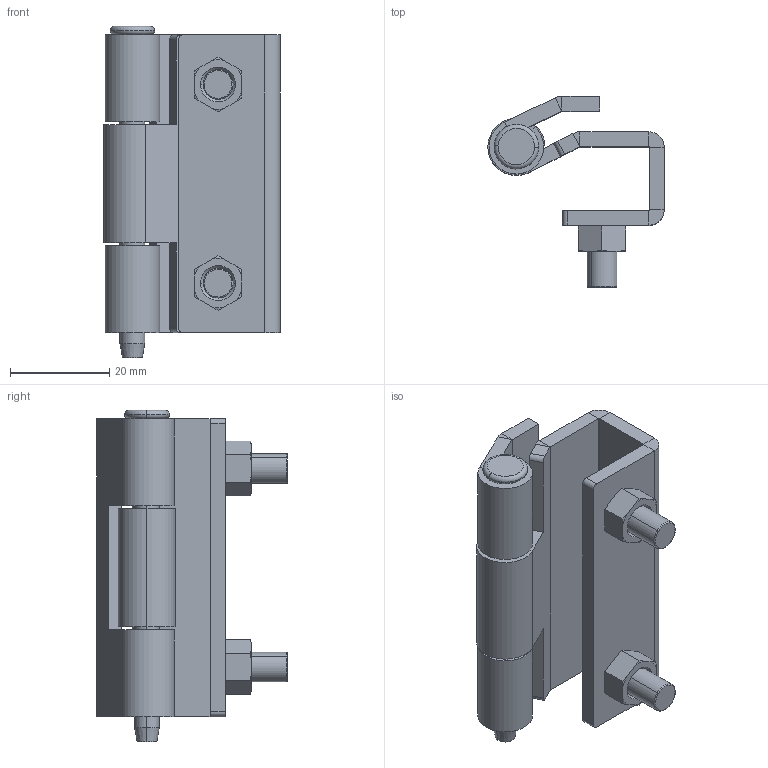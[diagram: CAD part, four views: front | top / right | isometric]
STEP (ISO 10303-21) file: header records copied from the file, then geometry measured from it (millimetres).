
FILE_DESCRIPTION (( 'STEP AP203' ), '1' );
FILE_NAME ('XG02-096.STEP', '2023-12-22T03:39:04', ( '' ), ( '' ), 'SwSTEP 2.0', 'SolidWorks 2020', '' );
FILE_SCHEMA (( 'CONFIG_CONTROL_DESIGN' ));
Length unit declared in the file: millimetre
Products named in the file (6): XG02-096; M6蹟佪; GB／T6170-20001型六角螺母A级和B级M6; HL081A; HL081; HL081-B
Assembly tree (7 placements, depth 2):
  XG02-096
    HL081A
    HL081-B
    HL081
    M6蹟佪  x2
    GB／T6170-20001型六角螺母A级和B级M6  x2
Bounding box: 35.5 x 38.45 x 66.7 mm (x, y, z)
Volume: 19617.2 mm3; surface area: 15788.8 mm2
Topology: 7 solids, 7 shells, 412 faces, 1133 edges, 738 vertices
Faces by surface type: plane 266, cylinder 104, cone 34, torus 8
Entity records: 12845 total; most frequent: CARTESIAN_POINT 2192, DIRECTION 2157, ORIENTED_EDGE 2098, EDGE_CURVE 1049, AXIS2_PLACEMENT_3D 745, VERTEX_POINT 684, VECTOR 667, LINE 667
